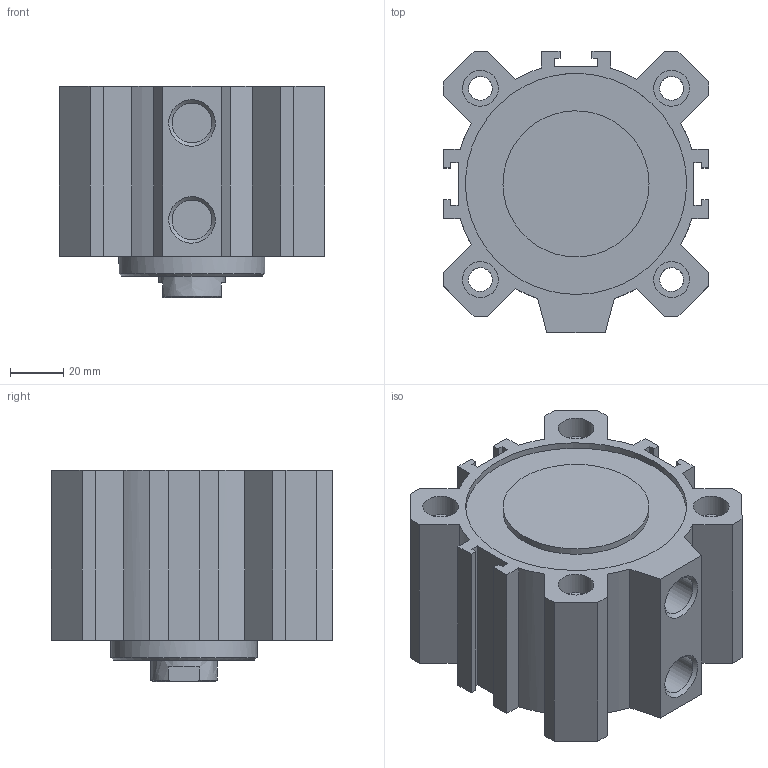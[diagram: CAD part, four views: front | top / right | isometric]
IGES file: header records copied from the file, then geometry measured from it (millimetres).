
Global section: file name: 1511_80_0015; native system: Autodesk Inventor 2014; preprocessor: unknown; author: A. Manieri; date: 20160824.142122; units: millimetre
Bounding box: 100 x 106 x 79.5 mm (x, y, z)
Volume: 455024.9 mm3; surface area: 100389.4 mm2
Topology: 2 solids, 2 shells, 119 faces, 307 edges, 210 vertices
Faces by surface type: bspline 119
